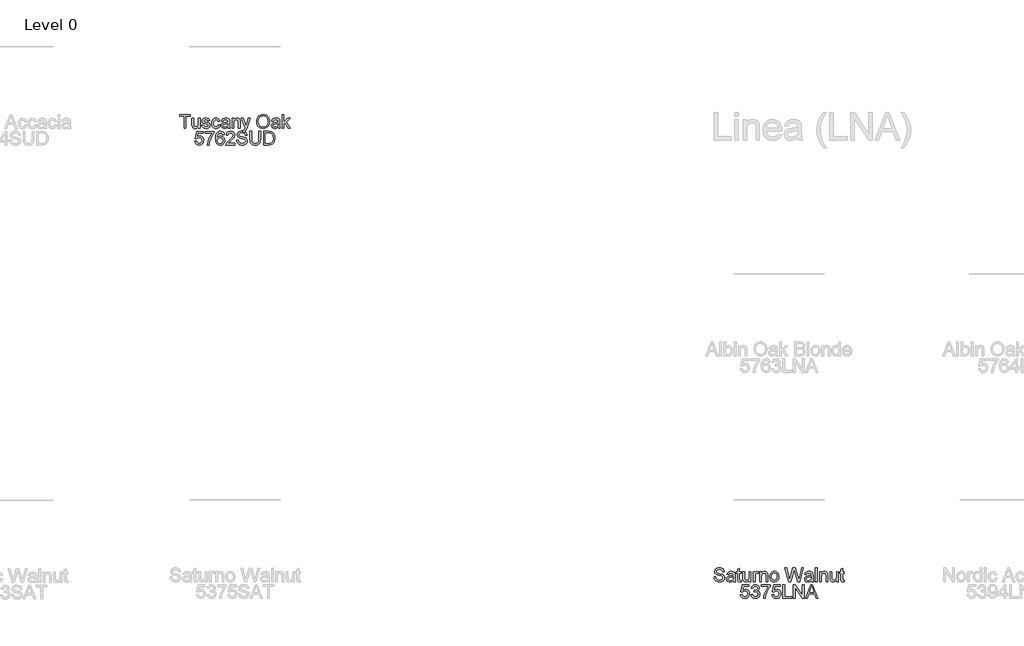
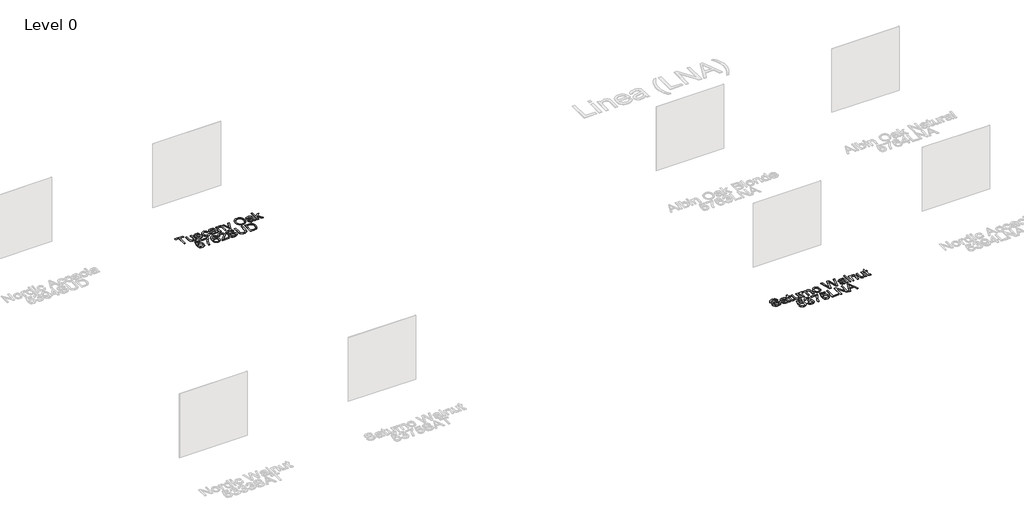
# One storey, part 24 of 43: 2 proxies.
"""IFC4 building model written with IfcOpenShell, lengths in millimetres."""

from ifc_helpers import new_model, si_unit, origin, origin_with_axes, place, context, project, spatial, polyline, outline, extrude, element, save

model = new_model("IFC4")

# Units and contexts
model_context = context("Model", 3, world=origin())
ifc_project = project(units=[si_unit("LENGTHUNIT", "METRE", prefix="MILLI")], contexts=[model_context])

# Site, building, storey
site = spatial("IfcSite", under=ifc_project)
building = spatial("IfcBuilding", under=site)
storey = spatial("IfcBuildingStorey", under=building, Name="Level 0", Elevation=0.0)

# Proxies
placement = place(None, origin())
element("IfcBuildingElementProxy", 1, Name="300mm Arial", ObjectType="300mm Arial", at=placement, inside=storey, context=model_context, shape_type="SweptSolid", body=[
    extrude(outline(polyline([(4428.6262336, -16995.860494), (4428.6262336, -16732.1626798), (4329.7395533, -16732.1626798), (4329.7395533, -16694.4915635), (4565.1840302, -16694.4915635), (4565.1840302, -16732.1626798), (4466.2973499, -16732.1626798), (4466.2973499, -16995.860494), (4428.6262336, -16995.860494)])), origin_with_axes(), (0.0, 0.0, 1.0), 10.0),
    extrude(outline(polyline([(4744.1218326, -16995.860494), (4744.1218326, -16957.8214957), (4730.4918047, -16976.5236966), (4714.6176966, -16989.8824116), (4696.4995084, -16997.8976405), (4676.1372399, -17000.5693835), (4657.7891254, -16998.6931853), (4640.7102038, -16993.0645908), (4626.3812001, -16984.6033049), (4616.2828393, -16974.2290327), (4605.0624385, -16946.4907302), (4602.8551465, -16911.4683643), (4602.8551465, -16774.5426857), (4640.5262628, -16774.5426857), (4640.5262628, -16893.7364521), (4642.8071312, -16932.1433324), (4648.29777, -16944.9548229), (4657.706352, -16954.6944987), (4670.4074779, -16960.8473251), (4685.7757482, -16962.8982672), (4702.0269354, -16960.8013398), (4717.2296588, -16954.5105577), (4729.7652378, -16944.605335), (4738.0149915, -16931.6650858), (4742.5951224, -16913.9423707), (4744.1218326, -16889.6897502), (4744.1218326, -16774.5426857), (4781.792949, -16774.5426857), (4781.792949, -16995.860494), (4744.1218326, -16995.860494)])), origin_with_axes(), (0.0, 0.0, 1.0), 10.0),
    extrude(outline(polyline([(4819.4640653, -16929.9360404), (4857.1351816, -16925.2271509), (4863.0764758, -16941.3403823), (4874.5727881, -16953.1861825), (4891.697695, -16960.470246), (4914.5247728, -16962.8982672), (4937.0759391, -16960.6725811), (4952.9316531, -16953.9955229), (4962.312644, -16944.3202265), (4965.4396409, -16933.0998256), (4962.2942499, -16923.4981055), (4952.8580767, -16916.1772538), (4914.0833144, -16905.4350996), (4857.3559108, -16887.0042116), (4842.9993159, -16877.7427824), (4832.5974525, -16865.4831149), (4826.2790792, -16851.0069584), (4824.1729548, -16835.0960621), (4825.865212, -16820.5003439), (4830.9419835, -16807.0266659), (4838.9434169, -16795.2084568), (4849.4096597, -16785.5791455), (4873.3587776, -16774.4323211), (4905.7691813, -16769.8337961), (4930.2885163, -16771.6824032), (4951.6072779, -16777.2282242), (4968.7505789, -16785.9286334), (4980.7435319, -16797.2410048), (4988.689783, -16812.0022698), (4993.6929782, -16831.0493601), (4956.0218619, -16835.7582497), (4951.2669871, -16823.9032524), (4941.8584051, -16814.972917), (4927.7041453, -16809.3719136), (4908.7122373, -16807.5049125), (4887.080776, -16809.2891401), (4872.6598018, -16814.6418232), (4864.5480038, -16822.3673451), (4861.8440711, -16831.2700893), (4866.3322314, -16842.2329728), (4880.3853237, -16850.5471059), (4912.8325156, -16858.5669334), (4968.1251795, -16876.2988455), (4982.7300947, -16884.7785255), (4993.8033428, -16896.3852025), (5000.7839036, -16911.1556646), (5003.1107573, -16929.1267001), (5000.3792334, -16947.7047408), (4992.184662, -16965.1791356), (4978.8397426, -16980.1795239), (4960.657175, -16991.3355454), (4938.6946199, -16998.260924), (4914.009738, -17000.5693835), (4876.025922, -16996.1180114), (4848.3060137, -16982.763895), (4829.8015493, -16960.654187), (4819.4640653, -16929.9360404)])), origin_with_axes(), (0.0, 0.0, 1.0), 10.0),
    extrude(outline(polyline([(5186.7574492, -16915.8093718), (5224.4285656, -16920.5182614), (5213.9255346, -16954.0231141), (5194.1886655, -16979.3425924), (5167.0757625, -16995.2626857), (5134.4446295, -17000.5693835), (5113.3167067, -16998.7184772), (5094.3730832, -16993.1657584), (5077.6137591, -16983.9112269), (5063.0387343, -16970.9548829), (5051.2412185, -16954.5404481), (5042.8144216, -16934.9116444), (5037.7583434, -16912.0684718), (5036.072984, -16886.0109302), (5038.9516606, -16852.4876834), (5047.5876905, -16823.4342028), (5062.1190293, -16799.9725286), (5082.6836328, -16783.2247008), (5107.2857412, -16773.1815223), (5133.9295947, -16769.8337961), (5165.7605844, -16774.4323211), (5191.2088214, -16788.2278959), (5209.4649654, -16810.4847566), (5219.719676, -16840.4671392), (5182.0485597, -16845.1760288), (5175.2151516, -16828.7409006), (5164.5741649, -16816.9594797), (5150.7142108, -16809.8685543), (5134.2239003, -16807.5049125), (5109.8793093, -16812.1586197), (5090.5563075, -16826.1197414), (5077.9471521, -16850.1424357), (5073.7441003, -16884.9808606), (5077.8551816, -16920.2883351), (5090.1884255, -16944.3938029), (5109.1619394, -16958.2721511), (5133.1938307, -16962.8982672), (5152.7007735, -16960.0103936), (5168.6944433, -16951.3467726), (5180.3287114, -16936.6866751), (5186.7574492, -16915.8093718)])), origin_with_axes(), (0.0, 0.0, 1.0), 10.0),
    extrude(outline(polyline([(5398.6574785, -16967.6071568), (5380.6588519, -16983.0398064), (5362.1267963, -16993.1381672), (5342.6382477, -16998.7115794), (5321.7701415, -17000.5693835), (5290.2886397, -16996.0996173), (5267.0660888, -16982.6903186), (5252.7462821, -16962.3280501), (5247.9730132, -16936.9993748), (5249.775635, -16921.3827841), (5255.1835003, -16907.2009331), (5263.5252246, -16895.0608273), (5274.1294231, -16885.5694718), (5300.5065622, -16873.2086368), (5333.1009069, -16867.5432541), (5371.6181518, -16861.5835657), (5398.4367493, -16854.5938078), (5398.6574785, -16846.2060983), (5396.0639104, -16829.3938912), (5388.2832062, -16818.3942195), (5370.8823878, -16810.2272392), (5346.6389644, -16807.5049125), (5324.1981626, -16809.3167313), (5308.5263896, -16814.7521878), (5297.8394177, -16824.8045633), (5290.3530191, -16840.4671392), (5252.6819028, -16835.7582497), (5259.2210052, -16815.156858), (5268.9790752, -16798.9700502), (5282.8666205, -16786.590821), (5301.7941491, -16777.4121652), (5324.9431237, -16771.7283884), (5351.4950067, -16769.8337961), (5376.9616378, -16771.5076592), (5397.1491623, -16776.5292485), (5412.3702798, -16784.0800264), (5422.9376901, -16793.3414556), (5429.9458422, -16804.7917827), (5434.4891848, -16818.9092543), (5436.3285948, -16851.8714811), (5436.3285948, -16898.7396473), (5438.2415811, -16964.1858542), (5445.7463739, -16995.860494), (5408.0752575, -16995.860494), (5398.6574785, -16967.6071568)]), holes=[polyline([(5398.6574785, -16892.2649241), (5337.8833729, -16903.8164188), (5305.4729691, -16909.9232599), (5290.7944775, -16919.8560738), (5285.6441295, -16934.3506244), (5288.4492298, -16945.5526311), (5296.8645304, -16954.7312869), (5310.7060905, -16960.8565221), (5329.789969, -16962.8982672), (5350.0234787, -16960.64499), (5367.9025437, -16953.8851583), (5382.3970943, -16943.9247533), (5392.4770609, -16932.069756), (5396.9468272, -16919.8560738), (5398.4367493, -16902.933502), (5398.6574785, -16892.2649241)])]), origin_with_axes(), (0.0, 0.0, 1.0), 10.0),
    extrude(outline(polyline([(5488.1263797, -16995.860494), (5488.1263797, -16774.5426857), (5525.797496, -16774.5426857), (5525.797496, -16805.4447733), (5538.884898, -16789.8649708), (5554.6026562, -16778.7365404), (5572.9507707, -16772.0594822), (5593.9292415, -16769.8337961), (5612.4980852, -16771.6272209), (5629.5034304, -16777.0074951), (5643.6852814, -16785.303234), (5653.7836421, -16795.8430532), (5665.0776194, -16823.5445674), (5667.0641821, -16859.964885), (5667.0641821, -16995.860494), (5629.3930658, -16995.860494), (5629.3930658, -16865.0416565), (5625.0520583, -16831.7115477), (5619.0463847, -16821.7879309), (5609.7113791, -16814.0900002), (5597.7460172, -16809.1511844), (5583.8492748, -16807.5049125), (5561.7855522, -16811.2021265), (5542.9775852, -16822.2937687), (5535.4612962, -16831.3482643), (5530.0925183, -16843.7228949), (5525.797496, -16878.4325611), (5525.797496, -16995.860494), (5488.1263797, -16995.860494)])), origin_with_axes(), (0.0, 0.0, 1.0), 10.0),
    extrude(outline(polyline([(5718.8619671, -17080.6205057), (5714.1530775, -17044.3473409), (5733.2829413, -17047.6582789), (5751.1620062, -17043.5012124), (5762.1248897, -17031.9129295), (5772.4255856, -17004.1746271), (5775.3686415, -16995.0511536), (5695.3175194, -16774.5426857), (5735.0487749, -16774.5426857), (5777.5023571, -16897.4152721), (5792.2912133, -16946.5643066), (5807.0800695, -16903.1542312), (5850.7108741, -16774.5426857), (5890.147824, -16774.5426857), (5813.1133342, -17001.1579947), (5793.1005537, -17050.3070293), (5782.8550401, -17065.9971964), (5771.2483632, -17076.8681093), (5757.7654881, -17083.2140737), (5741.89138, -17085.3293952), (5718.8619671, -17080.6205057)])), origin_with_axes(), (0.0, 0.0, 1.0), 10.0),
    extrude(outline(polyline([(6029.6486766, -16849.1491543), (6032.1594712, -16813.8002931), (6039.6918551, -16782.5073309), (6052.2458281, -16755.2702677), (6069.8213905, -16732.0891034), (6091.3654798, -16713.5800406), (6115.825034, -16700.3592814), (6143.2000529, -16692.4268258), (6173.4905367, -16689.782674), (6213.0194571, -16694.7490809), (6248.4648873, -16709.6483017), (6277.8954469, -16733.4318727), (6299.3797555, -16765.0513302), (6312.5131427, -16802.9799639), (6316.8909384, -16845.6910636), (6312.2832164, -16888.9723803), (6298.4600505, -16927.4344429), (6276.1847957, -16959.1090827), (6246.2208072, -16982.028131), (6211.0788796, -16995.9340704), (6173.2698075, -17000.5693835), (6133.1338818, -16995.4466267), (6097.4861165, -16980.0783564), (6068.1291333, -16955.853327), (6046.865554, -16924.1602931), (6033.9528959, -16887.6939903), (6029.6486766, -16849.1491543)]), holes=[polyline([(6067.3197929, -16849.5170363), (6069.2028889, -16874.4916252), (6074.8521768, -16896.661114), (6084.2676566, -16916.0255025), (6097.4493283, -16932.5847908), (6113.4728885, -16945.8469367), (6131.4140335, -16955.3198981), (6151.2727635, -16961.0036749), (6173.0490783, -16962.8982672), (6195.1978737, -16960.9852808), (6215.2911284, -16955.2463217), (6233.3288425, -16945.6813898), (6249.3110159, -16932.2904852), (6262.3961186, -16915.381709), (6271.7426206, -16895.2631624), (6277.3505217, -16871.9348454), (6279.2198221, -16845.396758), (6276.0192488, -16812.0482551), (6266.4175287, -16783.2247008), (6250.6629822, -16759.6526619), (6229.0039298, -16742.0587055), (6202.8751111, -16731.1050191), (6173.7112659, -16727.4537903), (6152.6914084, -16729.2127261), (6133.1890641, -16734.4895335), (6115.2042331, -16743.2842124), (6098.7369153, -16755.5967629), (6084.9919242, -16772.0203948), (6075.1740735, -16793.1483176), (6069.2833631, -16818.9805314), (6067.3197929, -16849.5170363)])]), origin_with_axes(), (0.0, 0.0, 1.0), 10.0),
    extrude(outline(polyline([(6505.24652, -16967.6071568), (6487.2478933, -16983.0398064), (6468.7158378, -16993.1381672), (6449.2272891, -16998.7115794), (6428.359183, -17000.5693835), (6396.8776812, -16996.0996173), (6373.6551303, -16982.6903186), (6359.3353236, -16962.3280501), (6354.5620547, -16936.9993748), (6356.3646765, -16921.3827841), (6361.7725418, -16907.2009331), (6370.1142661, -16895.0608273), (6380.7184646, -16885.5694718), (6407.0956036, -16873.2086368), (6439.6899484, -16867.5432541), (6478.2071933, -16861.5835657), (6505.0257908, -16854.5938078), (6505.24652, -16846.2060983), (6502.6529519, -16829.3938912), (6494.8722477, -16818.3942195), (6477.4714293, -16810.2272392), (6453.2280058, -16807.5049125), (6430.7872041, -16809.3167313), (6415.1154311, -16814.7521878), (6404.4284592, -16824.8045633), (6396.9420606, -16840.4671392), (6359.2709443, -16835.7582497), (6365.8100467, -16815.156858), (6375.5681167, -16798.9700502), (6389.455662, -16786.590821), (6408.3831906, -16777.4121652), (6431.5321652, -16771.7283884), (6458.0840482, -16769.8337961), (6483.5506793, -16771.5076592), (6503.7382038, -16776.5292485), (6518.9593213, -16784.0800264), (6529.5267316, -16793.3414556), (6536.5348836, -16804.7917827), (6541.0782263, -16818.9092543), (6542.9176363, -16851.8714811), (6542.9176363, -16898.7396473), (6544.8306226, -16964.1858542), (6552.3354153, -16995.860494), (6514.664299, -16995.860494), (6505.24652, -16967.6071568)]), holes=[polyline([(6505.24652, -16892.2649241), (6444.4724144, -16903.8164188), (6412.0620106, -16909.9232599), (6397.383519, -16919.8560738), (6392.233171, -16934.3506244), (6395.0382713, -16945.5526311), (6403.4535719, -16954.7312869), (6417.295132, -16960.8565221), (6436.3790105, -16962.8982672), (6456.6125202, -16960.64499), (6474.4915852, -16953.8851583), (6488.9861358, -16943.9247533), (6499.0661024, -16932.069756), (6503.5358687, -16919.8560738), (6505.0257908, -16902.933502), (6505.24652, -16892.2649241)])]), origin_with_axes(), (0.0, 0.0, 1.0), 10.0),
    extrude(outline(polyline([(6594.7154212, -16995.860494), (6594.7154212, -16694.4915635), (6632.3865375, -16694.4915635), (6632.3865375, -16856.4332178), (6716.8522436, -16774.5426857), (6768.9443341, -16774.5426857), (6683.4485584, -16857.4632874), (6773.6532236, -16995.860494), (6729.654537, -16995.860494), (6656.44602, -16883.6564855), (6632.3865375, -16906.9802039), (6632.3865375, -16995.860494), (6594.7154212, -16995.860494)])), origin_with_axes(), (0.0, 0.0, 1.0), 10.0),
    extrude(outline(polyline([(4666.4251553, -17281.7338254), (4704.0962716, -17277.0249358), (4711.0124531, -17299.6404815), (4723.0789825, -17315.8364863), (4740.2406776, -17325.5761621), (4762.442356, -17328.8227207), (4789.4448945, -17324.3069693), (4809.6784042, -17310.7597148), (4822.3151507, -17289.7444558), (4826.5273996, -17262.8246908), (4822.5818652, -17237.4776213), (4810.745262, -17218.0902402), (4790.9256195, -17205.7845875), (4763.0309672, -17201.6827032), (4744.7564291, -17203.3197781), (4729.9583758, -17208.2310027), (4708.8051611, -17225.2271509), (4671.1340448, -17220.5182614), (4704.0962716, -17065.1249066), (4850.0718473, -17065.1249066), (4850.0718473, -17102.7960229), (4734.5569008, -17102.7960229), (4718.4436694, -17185.790201), (4745.3542373, -17169.4562404), (4773.5523923, -17164.0115869), (4791.8982075, -17165.6992456), (4808.7495022, -17170.7622215), (4824.1062762, -17179.2005148), (4837.9685296, -17191.0141254), (4849.4441486, -17205.4810848), (4857.6410193, -17221.8794248), (4862.5591417, -17240.2091452), (4864.1985159, -17260.470246), (4858.2940099, -17298.1413624), (4850.9133773, -17314.9351754), (4840.5804918, -17330.3678251), (4824.9271129, -17346.1729553), (4806.6617718, -17357.4623341), (4785.7844686, -17364.2359613), (4762.2952032, -17366.4938371), (4725.2954715, -17360.6904986), (4709.6168008, -17353.4363255), (4695.8189267, -17343.2804832), (4684.3387092, -17330.7288093), (4675.6130081, -17316.2871418), (4666.4251553, -17281.7338254)])), origin_with_axes(), (0.0, 0.0, 1.0), 10.0),
    extrude(outline(polyline([(4897.1607426, -17102.7960229), (4897.1607426, -17065.1249066), (5094.9341033, -17065.1249066), (5094.9341033, -17095.5855358), (5066.7451454, -17131.2608923), (5038.832099, -17176.6299393), (5014.2115965, -17227.5540045), (4995.9002701, -17279.8944154), (4986.9239495, -17319.0554538), (4981.9207543, -17361.7849475), (4944.249638, -17361.7849475), (4948.3239311, -17322.9550029), (4959.2224352, -17276.8042066), (4976.6508448, -17227.8850983), (5000.3148541, -17180.7502177), (5027.9427919, -17138.1402856), (5057.2629869, -17102.7960229), (4897.1607426, -17102.7960229)])), origin_with_axes(), (0.0, 0.0, 1.0), 10.0),
    extrude(outline(polyline([(5320.9608011, -17140.4671392), (5283.2896848, -17145.1760288), (5277.2196319, -17126.5060175), (5269.0158634, -17113.7589064), (5251.9277447, -17102.0050766), (5231.2711707, -17098.0871334), (5213.7599877, -17100.3680017), (5197.2788743, -17107.2106069), (5183.1246145, -17121.622384), (5171.5639228, -17141.4604206), (5163.7556275, -17169.5206198), (5160.8585568, -17208.5988847), (5175.9693097, -17190.9681401), (5194.078301, -17178.5429257), (5214.1738549, -17171.1760888), (5235.2442962, -17168.7204764), (5253.3440904, -17170.3989381), (5270.045933, -17175.4343229), (5285.349824, -17183.8266309), (5299.2557634, -17195.5758621), (5310.8118565, -17209.9830407), (5319.0662088, -17226.349191), (5324.0188202, -17244.6743129), (5325.6696906, -17264.9584064), (5322.5610878, -17291.9333537), (5313.2352792, -17316.9401323), (5298.4648171, -17338.1485293), (5279.0222536, -17353.7283318), (5255.7905056, -17363.3024607), (5229.6524899, -17366.4938371), (5207.1955933, -17364.3785156), (5186.9137991, -17358.0325512), (5168.8071071, -17347.4559438), (5152.8755175, -17332.6486935), (5139.8869838, -17312.9854009), (5130.6094597, -17287.8406665), (5125.0429453, -17257.2144904), (5123.1874405, -17221.1068726), (5125.2475797, -17180.6260575), (5131.4279972, -17146.0773396), (5141.728693, -17117.4607189), (5156.1496672, -17094.7761954), (5171.7800535, -17079.7436174), (5189.9028403, -17069.0060617), (5210.5180276, -17062.5635282), (5233.6256154, -17060.4160171), (5266.6798127, -17065.7319119), (5293.1489223, -17081.6795964), (5311.6901748, -17107.0082718), (5320.9608011, -17140.4671392)]), holes=[polyline([(5160.8585568, -17264.3697952), (5163.0382576, -17281.0624407), (5169.5773601, -17297.0009282), (5179.7309031, -17310.7045325), (5192.7539258, -17320.6925287), (5208.471684, -17326.7901727), (5226.7094339, -17328.8227207), (5251.5690597, -17324.6104719), (5271.1127907, -17311.9737254), (5283.7771284, -17292.1080976), (5287.9985743, -17266.2092052), (5283.8323107, -17241.3495793), (5271.3335199, -17222.3944595), (5251.4586951, -17210.3923095), (5225.1643295, -17206.3915928), (5200.3414919, -17210.3923095), (5179.5837503, -17222.3944595), (5165.5398552, -17240.8897269), (5160.8585568, -17264.3697952)])]), origin_with_axes(), (0.0, 0.0, 1.0), 10.0),
    extrude(outline(polyline([(5551.6963885, -17324.1138312), (5551.6963885, -17361.7849475), (5353.9230279, -17361.7849475), (5357.9697298, -17335.8124787), (5367.2587502, -17315.5145896), (5380.8519899, -17295.8237058), (5400.5152825, -17275.213117), (5428.0144617, -17252.156113), (5468.6654222, -17216.0484951), (5493.0559984, -17189.3954446), (5505.2512866, -17167.7639833), (5509.3163826, -17146.7211331), (5505.4812128, -17127.8579838), (5493.9757034, -17112.1770138), (5476.2897765, -17101.6096035), (5453.9133541, -17098.0871334), (5430.4148917, -17101.52683), (5412.1587477, -17111.84592), (5400.3773268, -17128.2350629), (5396.3030337, -17149.8849183), (5358.6319174, -17145.1760288), (5367.7645879, -17108.7373171), (5376.3109465, -17094.2013798), (5387.510654, -17082.1210548), (5401.106193, -17072.6251008), (5416.8400461, -17065.8422765), (5454.7226945, -17060.4160171), (5474.9125183, -17061.9243332), (5492.8812545, -17066.4492818), (5508.6289031, -17073.9908627), (5522.1554642, -17084.549076), (5533.0194794, -17097.3421723), (5540.7794903, -17111.5884026), (5545.4354968, -17127.2877667), (5546.9874989, -17144.4402648), (5545.3136358, -17162.4572855), (5540.2920466, -17180.1616065), (5531.3801053, -17198.1694302), (5518.0351859, -17217.0969588), (5496.7624095, -17239.6941104), (5464.0668972, -17268.7108027), (5420.7303982, -17304.9471793), (5403.73425, -17324.1138312), (5551.6963885, -17324.1138312)])), origin_with_axes(), (0.0, 0.0, 1.0), 10.0),
    extrude(outline(polyline([(5589.3675048, -17258.1893777), (5627.0386211, -17258.1893777), (5631.3612345, -17279.0942721), (5639.1787269, -17295.8972822), (5651.3740151, -17309.2330045), (5668.8300157, -17319.7360355), (5690.1671714, -17326.5510494), (5714.0059247, -17328.8227207), (5734.9935926, -17327.1028724), (5753.3692982, -17321.9433274), (5768.259322, -17313.7763471), (5778.7899441, -17303.0341929), (5785.0531351, -17290.700949), (5787.1408654, -17277.7606998), (5785.5773669, -17265.1515444), (5780.8868715, -17254.2530403), (5771.3587278, -17244.9548229), (5755.2822846, -17237.1465276), (5700.4310791, -17222.7623415), (5664.4246288, -17213.2433949), (5641.3860189, -17204.1843008), (5622.6332342, -17191.510766), (5609.3434971, -17176.1516928), (5601.4248372, -17158.4381747), (5598.7852838, -17138.7013056), (5602.0502366, -17116.637583), (5611.8450947, -17096.0637824), (5627.9123408, -17078.6261758), (5649.9944576, -17065.9710352), (5676.5003553, -17058.2731044), (5705.8389444, -17055.7071275), (5737.6239488, -17058.3926661), (5765.4358277, -17066.4492818), (5788.2812996, -17079.7114277), (5805.1670831, -17098.013557), (5815.8540551, -17120.2152354), (5820.1030921, -17145.1760288), (5782.4319758, -17145.1760288), (5775.5157943, -17122.6984389), (5761.0948201, -17106.4748429), (5738.5620479, -17096.6523936), (5707.3104724, -17093.3782438), (5675.3231329, -17096.6156054), (5653.3789719, -17106.3276901), (5640.6870431, -17120.6199056), (5636.4564002, -17137.5976597), (5639.4546384, -17152.0738162), (5648.4493532, -17163.7172813), (5669.7129325, -17174.1283418), (5709.9592228, -17184.7601314), (5751.4931, -17194.8584922), (5776.6194403, -17203.669266), (5798.0945518, -17217.3360821), (5813.076546, -17234.2034716), (5821.8781228, -17254.0874934), (5824.8119817, -17276.8042066), (5821.4366644, -17300.0267576), (5811.3107125, -17321.869751), (5794.8479932, -17340.668521), (5772.4623738, -17354.7584014), (5745.5426088, -17363.5599781), (5715.4774527, -17366.4938371), (5678.5696915, -17363.3300519), (5648.1918358, -17353.8386964), (5623.9943976, -17337.9829824), (5605.627889, -17315.7261217), (5593.837271, -17288.6132187), (5589.3675048, -17258.1893777)])), origin_with_axes(), (0.0, 0.0, 1.0), 10.0),
    extrude(outline(polyline([(6079.0920167, -17060.4160171), (6116.7631331, -17060.4160171), (6116.7631331, -17234.277048), (6114.2063532, -17274.9923878), (6106.5360136, -17306.3451308), (6092.2070099, -17330.533372), (6069.6742377, -17349.7552063), (6038.8825147, -17362.3091794), (5999.7766586, -17366.4938371), (5961.5261281, -17362.8518053), (5930.9459373, -17351.92571), (5908.026889, -17334.0926303), (5892.7597862, -17309.7296452), (5884.1789387, -17277.052527), (5881.3186561, -17234.277048), (5881.3186561, -17060.4160171), (5918.9897724, -17060.4160171), (5918.9897724, -17232.9526728), (5920.8475765, -17266.8070134), (5926.4209887, -17290.3790523), (5936.5193495, -17306.7038158), (5951.9519992, -17318.8163305), (5972.0751444, -17326.3211232), (5996.2449914, -17328.8227207), (6034.5599012, -17323.8747079), (6048.9027005, -17317.6896919), (6060.0357294, -17309.0306694), (6068.3728551, -17296.8537754), (6074.3279449, -17280.1151446), (6079.0920167, -17232.9526728), (6079.0920167, -17060.4160171)])), origin_with_axes(), (0.0, 0.0, 1.0), 10.0),
    extrude(outline(polyline([(6182.6875866, -17361.7849475), (6182.6875866, -17060.4160171), (6286.6510384, -17060.4160171), (6340.4353861, -17064.7570246), (6364.4580804, -17073.12634), (6384.7283783, -17086.3149095), (6405.5688934, -17109.270746), (6420.4129319, -17137.8183889), (6429.2972821, -17171.406015), (6432.2587321, -17209.4818015), (6430.2537752, -17241.8278259), (6424.2389046, -17270.2926953), (6415.0786429, -17294.5269217), (6403.6375129, -17314.1810173), (6390.4673375, -17329.6964405), (6376.1199397, -17341.5146496), (6359.6480233, -17350.2794381), (6340.1042923, -17356.6345996), (6291.6542336, -17361.7849475), (6182.6875866, -17361.7849475)]), holes=[polyline([(6220.3587029, -17324.1138312), (6287.0189204, -17324.1138312), (6314.591676, -17322.7526678), (6335.5057674, -17318.6691777), (6351.287905, -17312.1024841), (6363.464799, -17303.2917103), (6376.552201, -17286.9853408), (6386.3838473, -17265.8781114), (6392.5366737, -17239.8780514), (6394.5876158, -17208.8931903), (6390.568505, -17167.8375597), (6378.5111726, -17137.5240833), (6360.696487, -17116.7019623), (6339.4053165, -17104.1203981), (6317.737067, -17099.5954496), (6285.9888508, -17098.0871334), (6220.3587029, -17098.0871334), (6220.3587029, -17324.1138312)])]), origin_with_axes(), (0.0, 0.0, 1.0), 10.0),
])
element("IfcBuildingElementProxy", 2, Name="300mm Arial", ObjectType="300mm Arial", at=placement, inside=storey, context=model_context, shape_type="SweptSolid", body=[
    extrude(outline(polyline([(16117.8395241, -26899.2649241), (16155.5106404, -26899.2649241), (16159.8332538, -26920.1698185), (16167.6507462, -26936.9728286), (16179.8460343, -26950.308551), (16197.302035, -26960.8115819), (16218.6391907, -26967.6265959), (16242.477944, -26969.8982672), (16263.4656119, -26968.1784189), (16281.8413175, -26963.0188739), (16296.7313413, -26954.8518936), (16307.2619634, -26944.1097394), (16313.5251543, -26931.7764955), (16315.6128847, -26918.8362463), (16314.0493862, -26906.2270909), (16309.3588907, -26895.3285868), (16299.8307471, -26886.0303694), (16283.7543039, -26878.222074), (16228.9030984, -26863.837888), (16192.8966481, -26854.3189414), (16169.8580382, -26845.2598472), (16151.1052535, -26832.5863125), (16137.8155164, -26817.2272392), (16129.8968565, -26799.5137211), (16127.2573031, -26779.7768521), (16130.5222558, -26757.7131294), (16140.317114, -26737.1393289), (16156.3843601, -26719.7017223), (16178.4664769, -26707.0465817), (16204.9723746, -26699.3486509), (16234.3109637, -26696.782674), (16266.0959681, -26699.4682126), (16293.907847, -26707.5248283), (16316.7533189, -26720.7869742), (16333.6391024, -26739.0891034), (16344.3260744, -26761.2907818), (16348.5751114, -26786.2515752), (16310.9039951, -26786.2515752), (16303.9878136, -26763.7739853), (16289.5668394, -26747.5503893), (16267.0340672, -26737.7279401), (16235.7824917, -26734.4537903), (16203.7951522, -26737.6911519), (16181.8509912, -26747.4032365), (16169.1590624, -26761.695452), (16164.9284194, -26778.6732061), (16167.9266577, -26793.1493626), (16176.9213725, -26804.7928278), (16198.1849518, -26815.2038882), (16238.4312421, -26825.8356779), (16279.9651193, -26835.9340387), (16305.0914596, -26844.7448125), (16326.5665711, -26858.4116286), (16341.5485653, -26875.2790181), (16350.3501421, -26895.1630399), (16353.284001, -26917.8797531), (16349.9086837, -26941.102304), (16339.7827318, -26962.9452975), (16323.3200125, -26981.7440675), (16300.9343931, -26995.8339479), (16274.0146281, -27004.6355246), (16243.949472, -27007.5693835), (16207.0417108, -27004.4055984), (16176.6638551, -26994.9142429), (16152.4664169, -26979.0585289), (16134.0999082, -26956.8016682), (16122.3092903, -26929.6887651), (16117.8395241, -26899.2649241)])), origin_with_axes(), (0.0, 0.0, 1.0), 10.0),
    extrude(outline(polyline([(16546.348472, -26974.6071568), (16528.3498454, -26990.0398064), (16509.8177899, -27000.1381672), (16490.3292412, -27005.7115794), (16469.4611351, -27007.5693835), (16437.9796333, -27003.0996173), (16414.7570824, -26989.6903186), (16400.4372757, -26969.3280501), (16395.6640068, -26943.9993748), (16397.4666286, -26928.3827841), (16402.8744939, -26914.2009331), (16411.2162182, -26902.0608273), (16421.8204167, -26892.5694718), (16448.1975557, -26880.2086368), (16480.7919005, -26874.5432541), (16519.3091454, -26868.5835657), (16546.1277428, -26861.5938078), (16546.348472, -26853.2060983), (16543.754904, -26836.3938912), (16535.9741998, -26825.3942195), (16518.5733814, -26817.2272392), (16494.3299579, -26814.5049125), (16471.8891562, -26816.3167313), (16456.2173832, -26821.7521878), (16445.5304113, -26831.8045633), (16438.0440127, -26847.4671392), (16400.3728964, -26842.7582497), (16406.9119988, -26822.156858), (16416.6700687, -26805.9700502), (16430.5576141, -26793.590821), (16449.4851427, -26784.4121652), (16472.6341173, -26778.7283884), (16499.1860003, -26776.8337961), (16524.6526314, -26778.5076592), (16544.8401559, -26783.5292485), (16560.0612734, -26791.0800264), (16570.6286837, -26800.3414556), (16577.6368357, -26811.7917827), (16582.1801784, -26825.9092543), (16584.0195883, -26858.8714811), (16584.0195883, -26905.7396473), (16585.9325747, -26971.1858542), (16593.4373674, -27002.860494), (16555.7662511, -27002.860494), (16546.348472, -26974.6071568)]), holes=[polyline([(16546.348472, -26899.2649241), (16485.5743664, -26910.8164188), (16453.1639627, -26916.9232599), (16438.4854711, -26926.8560738), (16433.3351231, -26941.3506244), (16436.1402233, -26952.5526311), (16444.555524, -26961.7312869), (16458.397084, -26967.8565221), (16477.4809625, -26969.8982672), (16497.7144723, -26967.64499), (16515.5935372, -26960.8851583), (16530.0880879, -26950.9247533), (16540.1680545, -26939.069756), (16544.6378208, -26926.8560738), (16546.1277428, -26909.933502), (16546.348472, -26899.2649241)])]), origin_with_axes(), (0.0, 0.0, 1.0), 10.0),
    extrude(outline(polyline([(16715.8684954, -26971.4433716), (16720.577385, -27003.96414), (16692.3976241, -27007.5693835), (16674.3162241, -27006.005885), (16660.8333489, -27001.3153896), (16651.3052053, -26994.0865084), (16645.0879995, -26984.9078526), (16641.666697, -26969.1441091), (16640.5262628, -26942.1599648), (16640.5262628, -26819.213802), (16612.2729256, -26819.213802), (16612.2729256, -26781.5426857), (16640.5262628, -26781.5426857), (16640.5262628, -26727.758338), (16678.1973791, -26705.6118419), (16678.1973791, -26781.5426857), (16715.8684954, -26781.5426857), (16715.8684954, -26819.213802), (16678.1973791, -26819.213802), (16678.1973791, -26941.0563188), (16680.1839419, -26960.4804881), (16686.6218768, -26967.3598814), (16699.4609584, -26969.8982672), (16715.8684954, -26971.4433716)])), origin_with_axes(), (0.0, 0.0, 1.0), 10.0),
    extrude(outline(polyline([(16894.8062979, -27002.860494), (16894.8062979, -26964.8214957), (16881.17627, -26983.5236966), (16865.3021619, -26996.8824116), (16847.1839736, -27004.8976405), (16826.8217052, -27007.5693835), (16808.4735907, -27005.6931853), (16791.394669, -27000.0645908), (16777.0656653, -26991.6033049), (16766.9673046, -26981.2290327), (16755.7469037, -26953.4907302), (16753.5396117, -26918.4683643), (16753.5396117, -26781.5426857), (16791.210728, -26781.5426857), (16791.210728, -26900.7364521), (16793.4915964, -26939.1433324), (16798.9822352, -26951.9548229), (16808.3908172, -26961.6944987), (16821.0919431, -26967.8473251), (16836.4602134, -26969.8982672), (16852.7114006, -26967.8013398), (16867.914124, -26961.5105577), (16880.449703, -26951.605335), (16888.6994568, -26938.6650858), (16893.2795876, -26920.9423707), (16894.8062979, -26896.6897502), (16894.8062979, -26781.5426857), (16932.4774142, -26781.5426857), (16932.4774142, -27002.860494), (16894.8062979, -27002.860494)])), origin_with_axes(), (0.0, 0.0, 1.0), 10.0),
    extrude(outline(polyline([(16984.2751991, -27002.860494), (16984.2751991, -26781.5426857), (17017.2374259, -26781.5426857), (17017.2374259, -26814.2841833), (17029.4143199, -26795.3014723), (17040.6347208, -26784.1178596), (17051.8919098, -26778.654812), (17064.1791685, -26776.8337961), (17082.9411502, -26779.7400639), (17101.9974376, -26788.4588672), (17089.4158733, -26822.2304343), (17076.1721215, -26816.4362929), (17062.9283697, -26814.5049125), (17051.6803777, -26816.3627165), (17041.6280021, -26821.9361288), (17033.5070071, -26830.8020848), (17028.0531565, -26842.5375205), (17023.4730257, -26863.5803706), (17021.9463154, -26886.5362071), (17021.9463154, -27002.860494), (16984.2751991, -27002.860494)])), origin_with_axes(), (0.0, 0.0, 1.0), 10.0),
    extrude(outline(polyline([(17125.5418852, -27002.860494), (17125.5418852, -26781.5426857), (17163.2130016, -26781.5426857), (17163.2130016, -26812.4447733), (17176.3004035, -26796.8649708), (17192.0181618, -26785.7365404), (17210.3662763, -26779.0594822), (17231.3447471, -26776.8337961), (17249.9135908, -26778.6272209), (17266.918936, -26784.0074951), (17281.1007869, -26792.303234), (17291.1991477, -26802.8430532), (17302.4931249, -26830.5445674), (17304.4796877, -26866.964885), (17304.4796877, -27002.860494), (17266.8085714, -27002.860494), (17266.8085714, -26872.0416565), (17262.4675639, -26838.7115477), (17256.4618903, -26828.7879309), (17247.1268847, -26821.0900002), (17235.1615228, -26816.1511844), (17221.2647804, -26814.5049125), (17199.2010577, -26818.2021265), (17180.3930907, -26829.2937687), (17172.8768017, -26838.3482643), (17167.5080238, -26850.7228949), (17163.2130016, -26885.4325611), (17163.2130016, -27002.860494), (17125.5418852, -27002.860494)])), origin_with_axes(), (0.0, 0.0, 1.0), 10.0),
    extrude(outline(polyline([(17346.8596935, -26892.2015898), (17348.8968401, -26863.5389839), (17355.0082797, -26838.8403064), (17365.1940125, -26818.1055575), (17379.4540383, -26801.334737), (17393.8106332, -26790.6155754), (17409.6571501, -26782.9590314), (17426.9935891, -26778.3651049), (17445.8199502, -26776.8337961), (17466.6029837, -26778.698498), (17485.3948559, -26784.2926036), (17502.1955667, -26793.6161129), (17517.0051163, -26806.669026), (17529.0923391, -26823.0098843), (17537.7260697, -26842.1972296), (17542.906308, -26864.2310619), (17544.6330542, -26889.1113811), (17541.5796336, -26927.1687735), (17532.4193719, -26956.1394806), (17517.4189836, -26977.8353213), (17496.845183, -26994.0681143), (17472.4086215, -27004.1940662), (17445.8199502, -27007.5693835), (17424.7334141, -27005.7115794), (17405.766798, -27000.1381672), (17388.9201019, -26990.8491468), (17374.1933258, -26977.8445183), (17362.2348617, -26961.3450108), (17353.6931016, -26941.5713536), (17348.5680456, -26918.5235466), (17346.8596935, -26892.2015898)]), holes=[polyline([(17384.5308099, -26892.1280134), (17388.8902115, -26926.2214773), (17401.9684164, -26950.5108861), (17421.6501032, -26965.0514219), (17445.8199502, -26969.8982672), (17469.8794327, -26965.0238308), (17489.5243313, -26950.4005215), (17502.6025362, -26925.789216), (17506.9619378, -26890.950791), (17502.5749451, -26857.8506085), (17489.4139667, -26833.8922936), (17469.741477, -26819.3517577), (17445.8199502, -26814.5049125), (17421.6501032, -26819.3333636), (17401.9684164, -26833.8187172), (17388.8902115, -26858.0529436), (17384.5308099, -26892.1280134)])]), origin_with_axes(), (0.0, 0.0, 1.0), 10.0),
    extrude(outline(polyline([(17763.3756885, -27002.860494), (17681.1908508, -26701.4915635), (17720.0391895, -26701.4915635), (17767.716696, -26899.5592297), (17782.4319758, -26960.7012173), (17798.1773252, -26906.622564), (17857.9213612, -26701.4915635), (17913.9130009, -26701.4915635), (17957.3230763, -26850.189466), (17975.9195112, -26905.3717653), (17989.6231155, -26960.7012173), (18003.8969369, -26901.3250633), (18052.0159019, -26701.4915635), (18090.8642406, -26701.4915635), (18008.6058265, -27002.860494), (17968.3595362, -27002.860494), (17896.1075123, -26770.359073), (17886.0275457, -26737.9118811), (17874.6967802, -26776.9809489), (17808.8459031, -27002.860494), (17763.3756885, -27002.860494)])), origin_with_axes(), (0.0, 0.0, 1.0), 10.0),
    extrude(outline(polyline([(18265.0931535, -26974.6071568), (18247.0945269, -26990.0398064), (18228.5624714, -27000.1381672), (18209.0739227, -27005.7115794), (18188.2058165, -27007.5693835), (18156.7243148, -27003.0996173), (18133.5017638, -26989.6903186), (18119.1819572, -26969.3280501), (18114.4086883, -26943.9993748), (18116.2113101, -26928.3827841), (18121.6191754, -26914.2009331), (18129.9608996, -26902.0608273), (18140.5650981, -26892.5694718), (18166.9422372, -26880.2086368), (18199.536582, -26874.5432541), (18238.0538269, -26868.5835657), (18264.8724243, -26861.5938078), (18265.0931535, -26853.2060983), (18262.4995854, -26836.3938912), (18254.7188812, -26825.3942195), (18237.3180629, -26817.2272392), (18213.0746394, -26814.5049125), (18190.6338377, -26816.3167313), (18174.9620647, -26821.7521878), (18164.2750927, -26831.8045633), (18156.7886941, -26847.4671392), (18119.1175778, -26842.7582497), (18125.6566803, -26822.156858), (18135.4147502, -26805.9700502), (18149.3022955, -26793.590821), (18168.2298242, -26784.4121652), (18191.3787987, -26778.7283884), (18217.9306817, -26776.8337961), (18243.3973128, -26778.5076592), (18263.5848373, -26783.5292485), (18278.8059549, -26791.0800264), (18289.3733652, -26800.3414556), (18296.3815172, -26811.7917827), (18300.9248598, -26825.9092543), (18302.7642698, -26858.8714811), (18302.7642698, -26905.7396473), (18304.6772562, -26971.1858542), (18312.1820489, -27002.860494), (18274.5109326, -27002.860494), (18265.0931535, -26974.6071568)]), holes=[polyline([(18265.0931535, -26899.2649241), (18204.3190479, -26910.8164188), (18171.9086441, -26916.9232599), (18157.2301525, -26926.8560738), (18152.0798046, -26941.3506244), (18154.8849048, -26952.5526311), (18163.3002054, -26961.7312869), (18177.1417655, -26967.8565221), (18196.225644, -26969.8982672), (18216.4591537, -26967.64499), (18234.3382187, -26960.8851583), (18248.8327693, -26950.9247533), (18258.912736, -26939.069756), (18263.3825022, -26926.8560738), (18264.8724243, -26909.933502), (18265.0931535, -26899.2649241)])]), origin_with_axes(), (0.0, 0.0, 1.0), 10.0),
    extrude(outline(polyline([(18354.5620547, -27002.860494), (18354.5620547, -26701.4915635), (18392.233171, -26701.4915635), (18392.233171, -27002.860494), (18354.5620547, -27002.860494)])), origin_with_axes(), (0.0, 0.0, 1.0), 10.0),
    extrude(outline(polyline([(18448.7398455, -27002.860494), (18448.7398455, -26781.5426857), (18486.4109618, -26781.5426857), (18486.4109618, -26812.4447733), (18499.4983638, -26796.8649708), (18515.216122, -26785.7365404), (18533.5642365, -26779.0594822), (18554.5427073, -26776.8337961), (18573.111551, -26778.6272209), (18590.1168962, -26784.0074951), (18604.2987472, -26792.303234), (18614.3971079, -26802.8430532), (18625.6910852, -26830.5445674), (18627.677648, -26866.964885), (18627.677648, -27002.860494), (18590.0065316, -27002.860494), (18590.0065316, -26872.0416565), (18585.6655241, -26838.7115477), (18579.6598505, -26828.7879309), (18570.3248449, -26821.0900002), (18558.359483, -26816.1511844), (18544.4627406, -26814.5049125), (18522.399018, -26818.2021265), (18503.591051, -26829.2937687), (18496.074762, -26838.3482643), (18490.7059841, -26850.7228949), (18486.4109618, -26885.4325611), (18486.4109618, -27002.860494), (18448.7398455, -27002.860494)])), origin_with_axes(), (0.0, 0.0, 1.0), 10.0),
    extrude(outline(polyline([(18820.742119, -27002.860494), (18820.742119, -26964.8214957), (18807.1120911, -26983.5236966), (18791.237983, -26996.8824116), (18773.1197947, -27004.8976405), (18752.7575263, -27007.5693835), (18734.4094118, -27005.6931853), (18717.3304902, -27000.0645908), (18703.0014865, -26991.6033049), (18692.9031257, -26981.2290327), (18681.6827248, -26953.4907302), (18679.4754329, -26918.4683643), (18679.4754329, -26781.5426857), (18717.1465492, -26781.5426857), (18717.1465492, -26900.7364521), (18719.4274176, -26939.1433324), (18724.9180563, -26951.9548229), (18734.3266384, -26961.6944987), (18747.0277642, -26967.8473251), (18762.3960346, -26969.8982672), (18778.6472217, -26967.8013398), (18793.8499452, -26961.5105577), (18806.3855242, -26951.605335), (18814.6352779, -26938.6650858), (18819.2154087, -26920.9423707), (18820.742119, -26896.6897502), (18820.742119, -26781.5426857), (18858.4132353, -26781.5426857), (18858.4132353, -27002.860494), (18820.742119, -27002.860494)])), origin_with_axes(), (0.0, 0.0, 1.0), 10.0),
    extrude(outline(polyline([(18990.2621424, -26971.4433716), (18994.9710319, -27003.96414), (18966.7912711, -27007.5693835), (18948.709871, -27006.005885), (18935.2269959, -27001.3153896), (18925.6988522, -26994.0865084), (18919.4816465, -26984.9078526), (18916.060344, -26969.1441091), (18914.9199098, -26942.1599648), (18914.9199098, -26819.213802), (18886.6665726, -26819.213802), (18886.6665726, -26781.5426857), (18914.9199098, -26781.5426857), (18914.9199098, -26727.758338), (18952.5910261, -26705.6118419), (18952.5910261, -26781.5426857), (18990.2621424, -26781.5426857), (18990.2621424, -26819.213802), (18952.5910261, -26819.213802), (18952.5910261, -26941.0563188), (18954.5775889, -26960.4804881), (18961.0155238, -26967.3598814), (18973.8546054, -26969.8982672), (18990.2621424, -26971.4433716)])), origin_with_axes(), (0.0, 0.0, 1.0), 10.0),
    extrude(outline(polyline([(16701.7418268, -27288.7338254), (16739.4129431, -27284.0249358), (16746.3291246, -27306.6404815), (16758.3956541, -27322.8364863), (16775.5573491, -27332.5761621), (16797.7590275, -27335.8227207), (16824.761566, -27331.3069693), (16844.9950757, -27317.7597148), (16857.6318223, -27296.7444558), (16861.8440711, -27269.8246908), (16857.8985367, -27244.4776213), (16846.0619335, -27225.0902402), (16826.242291, -27212.7845875), (16798.3476387, -27208.6827032), (16780.0731006, -27210.3197781), (16765.2750474, -27215.2310027), (16744.1218326, -27232.2271509), (16706.4507163, -27227.5182614), (16739.4129431, -27072.1249066), (16885.3885188, -27072.1249066), (16885.3885188, -27109.7960229), (16769.8735723, -27109.7960229), (16753.7603409, -27192.790201), (16780.6709089, -27176.4562404), (16808.8690638, -27171.0115869), (16827.214879, -27172.6992456), (16844.0661737, -27177.7622215), (16859.4229477, -27186.2005148), (16873.2852012, -27198.0141254), (16884.7608201, -27212.4810848), (16892.9576908, -27228.8794248), (16897.8758133, -27247.2091452), (16899.5151874, -27267.470246), (16893.6106814, -27305.1413624), (16886.2300489, -27321.9351754), (16875.8971633, -27337.3678251), (16860.2437844, -27353.1729553), (16841.9784434, -27364.4623341), (16821.1011401, -27371.2359613), (16797.6118747, -27373.4938371), (16760.6121431, -27367.6904986), (16744.9334723, -27360.4363255), (16731.1355982, -27350.2804832), (16719.6553807, -27337.7288093), (16710.9296796, -27323.2871418), (16701.7418268, -27288.7338254)])), origin_with_axes(), (0.0, 0.0, 1.0), 10.0),
    extrude(outline(polyline([(16932.4774142, -27288.7338254), (16970.1485305, -27284.0249358), (16978.5822252, -27307.6981422), (16990.9338632, -27323.6826149), (17007.8104497, -27332.7876943), (17029.8189901, -27335.8227207), (17055.6443062, -27331.6472601), (17075.5835103, -27319.1208782), (17088.3306214, -27300.4324728), (17092.5796585, -27277.7709419), (17088.3674096, -27256.2590422), (17075.7306631, -27238.8122386), (17056.6007994, -27227.2515469), (17032.9091989, -27223.397983), (17006.4952716, -27227.5182614), (17010.6891264, -27189.8471451), (17016.7223911, -27190.2886035), (17039.2919515, -27187.5846708), (17059.4702789, -27179.4728728), (17073.7073121, -27165.7508744), (17078.4529899, -27146.2163404), (17075.0132932, -27129.9467592), (17064.6942032, -27116.7489926), (17048.9488539, -27108.0025982), (17029.2303789, -27105.0871334), (17009.4751158, -27108.0301893), (16993.3250962, -27116.8593572), (16981.5344782, -27131.574637), (16974.85742, -27152.1760288), (16937.1863037, -27147.4671392), (16948.2779459, -27113.6403898), (16968.0148149, -27088.3852908), (16995.0173534, -27072.6583355), (17027.9060037, -27067.4160171), (17051.5884072, -27070.0003881), (17073.3394301, -27077.7535011), (17091.6783476, -27089.9855775), (17105.1244345, -27106.0068384), (17113.3741883, -27124.4653175), (17116.1241062, -27144.0090485), (17113.512144, -27162.2192072), (17105.6762575, -27178.7371088), (17092.7268113, -27192.8085951), (17074.7741699, -27203.6795081), (17098.3554058, -27213.2076518), (17115.8298006, -27229.4312477), (17126.6455312, -27251.4673793), (17130.2507748, -27278.4331295), (17128.448153, -27297.5445992), (17123.0402877, -27315.1477526), (17114.0271788, -27331.2425899), (17101.4088264, -27345.829111), (17086.0359575, -27357.9324287), (17068.7592993, -27366.5776555), (17049.5788518, -27371.7647917), (17028.4946149, -27373.4938371), (17009.4383276, -27372.0177105), (16992.0742974, -27367.589331), (16976.4025244, -27360.2086985), (16962.4230086, -27349.875813), (16950.7013685, -27337.1976797), (16941.8032228, -27322.781304), (16935.7285713, -27306.6266859), (16932.4774142, -27288.7338254)])), origin_with_axes(), (0.0, 0.0, 1.0), 10.0),
    extrude(outline(polyline([(17163.2130016, -27109.7960229), (17163.2130016, -27072.1249066), (17360.9863622, -27072.1249066), (17360.9863622, -27102.5855358), (17332.7974043, -27138.2608923), (17304.8843579, -27183.6299393), (17280.2638554, -27234.5540045), (17261.9525291, -27286.8944154), (17252.9762084, -27326.0554538), (17247.9730132, -27368.7849475), (17210.3018969, -27368.7849475), (17214.37619, -27329.9550029), (17225.2746941, -27283.8042066), (17242.7031037, -27234.8850983), (17266.367113, -27187.7502177), (17293.9950508, -27145.1402856), (17323.3152459, -27109.7960229), (17163.2130016, -27109.7960229)])), origin_with_axes(), (0.0, 0.0, 1.0), 10.0),
    extrude(outline(polyline([(17393.9485889, -27288.7338254), (17431.6197052, -27284.0249358), (17438.5358867, -27306.6404815), (17450.6024162, -27322.8364863), (17467.7641113, -27332.5761621), (17489.9657897, -27335.8227207), (17516.9683281, -27331.3069693), (17537.2018379, -27317.7597148), (17549.8385844, -27296.7444558), (17554.0508332, -27269.8246908), (17550.1052988, -27244.4776213), (17538.2686956, -27225.0902402), (17518.4490531, -27212.7845875), (17490.5544009, -27208.6827032), (17472.2798628, -27210.3197781), (17457.4818095, -27215.2310027), (17436.3285948, -27232.2271509), (17398.6574785, -27227.5182614), (17431.6197052, -27072.1249066), (17577.5952809, -27072.1249066), (17577.5952809, -27109.7960229), (17462.0803344, -27109.7960229), (17445.967103, -27192.790201), (17472.877671, -27176.4562404), (17501.0758259, -27171.0115869), (17519.4216412, -27172.6992456), (17536.2729358, -27177.7622215), (17551.6297099, -27186.2005148), (17565.4919633, -27198.0141254), (17576.9675823, -27212.4810848), (17585.164453, -27228.8794248), (17590.0825754, -27247.2091452), (17591.7219495, -27267.470246), (17585.8174435, -27305.1413624), (17578.436811, -27321.9351754), (17568.1039254, -27337.3678251), (17552.4505466, -27353.1729553), (17534.1852055, -27364.4623341), (17513.3079023, -27371.2359613), (17489.8186369, -27373.4938371), (17452.8189052, -27367.6904986), (17437.1402344, -27360.4363255), (17423.3423603, -27350.2804832), (17411.8621428, -27337.7288093), (17403.1364418, -27323.2871418), (17393.9485889, -27288.7338254)])), origin_with_axes(), (0.0, 0.0, 1.0), 10.0),
    extrude(outline(polyline([(17638.8108449, -27368.7849475), (17638.8108449, -27067.4160171), (17676.4819612, -27067.4160171), (17676.4819612, -27331.1138312), (17827.1664265, -27331.1138312), (17827.1664265, -27368.7849475), (17638.8108449, -27368.7849475)])), origin_with_axes(), (0.0, 0.0, 1.0), 10.0),
    extrude(outline(polyline([(17869.5464323, -27368.7849475), (17869.5464323, -27067.4160171), (17909.866299, -27067.4160171), (18067.3197929, -27306.1714319), (18067.3197929, -27067.4160171), (18104.9909092, -27067.4160171), (18104.9909092, -27368.7849475), (18064.6710425, -27368.7849475), (17907.2175486, -27129.9559562), (17907.2175486, -27368.7849475), (17869.5464323, -27368.7849475)])), origin_with_axes(), (0.0, 0.0, 1.0), 10.0),
    extrude(outline(polyline([(18135.8194204, -27368.7849475), (18256.1168328, -27067.4160171), (18288.1961428, -27067.4160171), (18408.4935552, -27368.7849475), (18368.6887234, -27368.7849475), (18334.1813922, -27274.6071568), (18210.058007, -27274.6071568), (18175.6242523, -27368.7849475), (18135.8194204, -27368.7849475)]), holes=[polyline([(18223.89037, -27236.9360404), (18320.4226056, -27236.9360404), (18293.2729143, -27162.8446066), (18272.1564878, -27105.0871334), (18253.3945061, -27156.3698835), (18223.89037, -27236.9360404)])]), origin_with_axes(), (0.0, 0.0, 1.0), 10.0),
])

save(model, "model.ifc")
